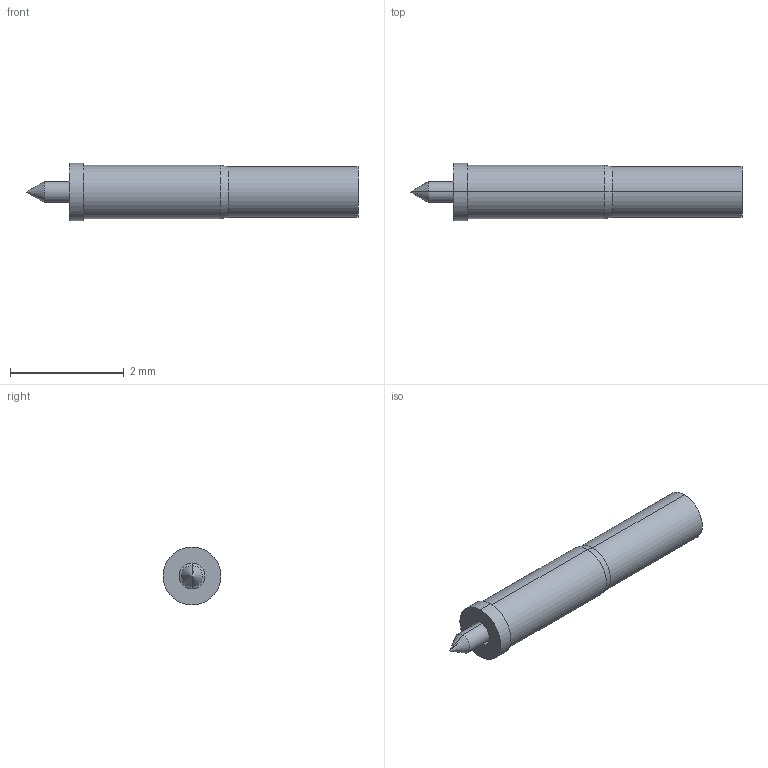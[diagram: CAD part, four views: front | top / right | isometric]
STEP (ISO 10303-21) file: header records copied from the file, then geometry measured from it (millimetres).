
FILE_DESCRIPTION (( 'STEP AP214' ), '1' );
FILE_NAME ('PC0BS.STEP', '2021-06-30T14:21:52', ( '' ), ( '' ), 'SwSTEP 2.0', 'SolidWorks 2021', '' );
FILE_SCHEMA (( 'AUTOMOTIVE_DESIGN' ));
Length unit declared in the file: millimetre
Products named in the file (5): 1945-0; 1946-3; 6460_-0260-G; 6224-0; PC0BS
Assembly tree (4 placements, depth 2):
  PC0BS
    1946-3
    1945-0
    6224-0
    6460_-0260-G
Bounding box: 5.84 x 1.02 x 1.02 mm (x, y, z)
Volume: 2.3 mm3; surface area: 32.2 mm2
Topology: 4 solids, 4 shells, 54 faces, 126 edges, 74 vertices
Faces by surface type: bspline 16, cylinder 16, cone 12, plane 10
Entity records: 3659 total; most frequent: CARTESIAN_POINT 2385, ORIENTED_EDGE 236, DIRECTION 224, EDGE_CURVE 118, AXIS2_PLACEMENT_3D 97, VERTEX_POINT 74, EDGE_LOOP 58, ADVANCED_FACE 54
